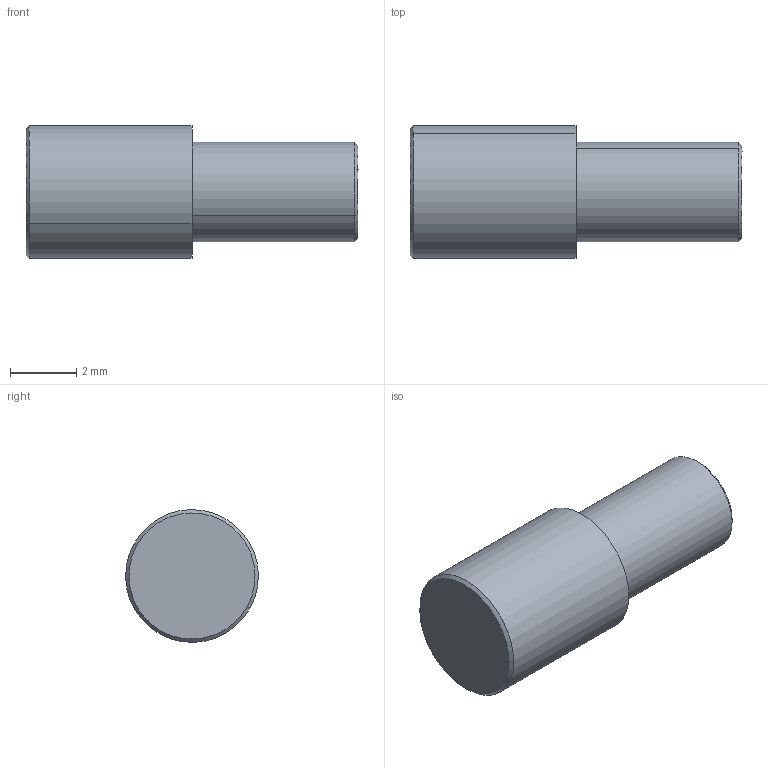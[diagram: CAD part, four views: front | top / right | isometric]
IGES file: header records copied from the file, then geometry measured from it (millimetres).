
Start section: START RECORD GO HERE.
Global section: file name: PION.igs; native system: IBM CATIA IGES - CATIA Version 5 Release 18 ; preprocessor: CATIA Version 5 Release 18 ; author: Propriétaire; organization: FUJITSU-79916BB; date: 20090111.191357; units: millimetre
Bounding box: 10 x 4 x 4 mm (x, y, z)
Surface area: 133.8 mm2 (no closed solid volume)
Topology: 0 solids, 0 shells, 11 faces, 40 edges, 40 vertices
Faces by surface type: revolution 8, plane 3
